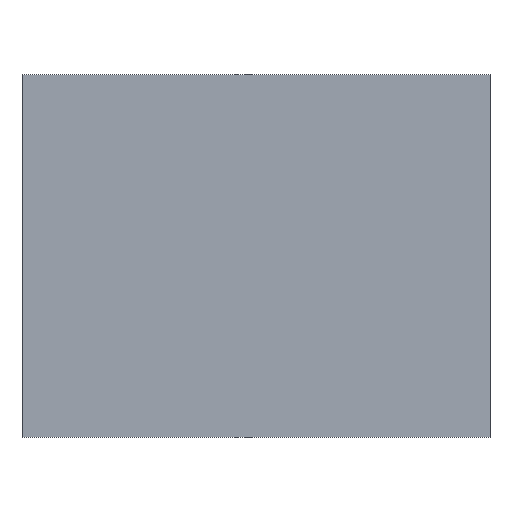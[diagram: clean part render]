
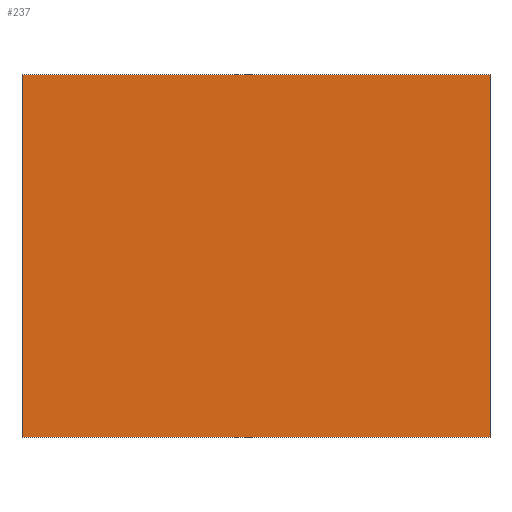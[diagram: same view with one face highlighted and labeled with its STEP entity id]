
A CAD part, front view. The second image highlights one B-rep face of the part: STEP entity #237.
In plain terms, the highlighted planar face has unit normal (0, -1, 0).
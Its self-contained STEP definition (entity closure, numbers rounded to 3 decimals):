
#21 = EDGE_CURVE('',#22,#24,#26,.T.);
#22 = VERTEX_POINT('',#23);
#23 = CARTESIAN_POINT('',(15.4,-42.6,-10.5));
#24 = VERTEX_POINT('',#25);
#25 = CARTESIAN_POINT('',(15.4,-42.6,-7.79));
#26 = SURFACE_CURVE('',#27,(#31,#43),.PCURVE_S1.);
#27 = LINE('',#28,#29);
#28 = CARTESIAN_POINT('',(15.4,-42.6,-10.5));
#29 = VECTOR('',#30,1.);
#30 = DIRECTION('',(0.,0.,1.));
#31 = PCURVE('',#32,#37);
#32 = PLANE('',#33);
#33 = AXIS2_PLACEMENT_3D('',#34,#35,#36);
#34 = CARTESIAN_POINT('',(15.4,-42.6,-10.5));
#35 = DIRECTION('',(1.,0.,-0.));
#36 = DIRECTION('',(0.,0.,1.));
#37 = DEFINITIONAL_REPRESENTATION('',(#38),#42);
#38 = LINE('',#39,#40);
#39 = CARTESIAN_POINT('',(0.,0.));
#40 = VECTOR('',#41,1.);
#41 = DIRECTION('',(1.,0.));
#42 = ( GEOMETRIC_REPRESENTATION_CONTEXT(2) 
PARAMETRIC_REPRESENTATION_CONTEXT() REPRESENTATION_CONTEXT('2D SPACE',''
  ) );
#43 = PCURVE('',#44,#49);
#44 = PLANE('',#45);
#45 = AXIS2_PLACEMENT_3D('',#46,#47,#48);
#46 = CARTESIAN_POINT('',(15.4,-42.6,-10.5));
#47 = DIRECTION('',(-0.,1.,0.));
#48 = DIRECTION('',(0.,0.,1.));
#49 = DEFINITIONAL_REPRESENTATION('',(#50),#54);
#50 = LINE('',#51,#52);
#51 = CARTESIAN_POINT('',(0.,0.));
#52 = VECTOR('',#53,1.);
#53 = DIRECTION('',(1.,0.));
#54 = ( GEOMETRIC_REPRESENTATION_CONTEXT(2) 
PARAMETRIC_REPRESENTATION_CONTEXT() REPRESENTATION_CONTEXT('2D SPACE',''
  ) );
#72 = PLANE('',#73);
#73 = AXIS2_PLACEMENT_3D('',#74,#75,#76);
#74 = CARTESIAN_POINT('',(15.4,-42.6,-10.5));
#75 = DIRECTION('',(0.,0.,1.));
#76 = DIRECTION('',(1.,0.,-0.));
#126 = PLANE('',#127);
#127 = AXIS2_PLACEMENT_3D('',#128,#129,#130);
#128 = CARTESIAN_POINT('',(15.4,-42.6,-7.79));
#129 = DIRECTION('',(0.,0.,1.));
#130 = DIRECTION('',(1.,0.,-0.));
#141 = EDGE_CURVE('',#142,#144,#146,.T.);
#142 = VERTEX_POINT('',#143);
#143 = CARTESIAN_POINT('',(18.9,-42.6,-10.5));
#144 = VERTEX_POINT('',#145);
#145 = CARTESIAN_POINT('',(18.9,-42.6,-7.79));
#146 = SURFACE_CURVE('',#147,(#151,#163),.PCURVE_S1.);
#147 = LINE('',#148,#149);
#148 = CARTESIAN_POINT('',(18.9,-42.6,-10.5));
#149 = VECTOR('',#150,1.);
#150 = DIRECTION('',(0.,0.,1.));
#151 = PCURVE('',#152,#157);
#152 = PLANE('',#153);
#153 = AXIS2_PLACEMENT_3D('',#154,#155,#156);
#154 = CARTESIAN_POINT('',(18.9,-42.6,-10.5));
#155 = DIRECTION('',(1.,0.,-0.));
#156 = DIRECTION('',(0.,0.,1.));
#157 = DEFINITIONAL_REPRESENTATION('',(#158),#162);
#158 = LINE('',#159,#160);
#159 = CARTESIAN_POINT('',(0.,0.));
#160 = VECTOR('',#161,1.);
#161 = DIRECTION('',(1.,0.));
#162 = ( GEOMETRIC_REPRESENTATION_CONTEXT(2) 
PARAMETRIC_REPRESENTATION_CONTEXT() REPRESENTATION_CONTEXT('2D SPACE',''
  ) );
#163 = PCURVE('',#44,#164);
#164 = DEFINITIONAL_REPRESENTATION('',(#165),#169);
#165 = LINE('',#166,#167);
#166 = CARTESIAN_POINT('',(0.,3.5));
#167 = VECTOR('',#168,1.);
#168 = DIRECTION('',(1.,0.));
#169 = ( GEOMETRIC_REPRESENTATION_CONTEXT(2) 
PARAMETRIC_REPRESENTATION_CONTEXT() REPRESENTATION_CONTEXT('2D SPACE',''
  ) );
#237 = ADVANCED_FACE('',(#238),#44,.F.);
#238 = FACE_BOUND('',#239,.F.);
#239 = EDGE_LOOP('',(#240,#261,#262,#283));
#240 = ORIENTED_EDGE('',*,*,#241,.F.);
#241 = EDGE_CURVE('',#22,#142,#242,.T.);
#242 = SURFACE_CURVE('',#243,(#247,#254),.PCURVE_S1.);
#243 = LINE('',#244,#245);
#244 = CARTESIAN_POINT('',(15.4,-42.6,-10.5));
#245 = VECTOR('',#246,1.);
#246 = DIRECTION('',(1.,0.,-0.));
#247 = PCURVE('',#44,#248);
#248 = DEFINITIONAL_REPRESENTATION('',(#249),#253);
#249 = LINE('',#250,#251);
#250 = CARTESIAN_POINT('',(0.,0.));
#251 = VECTOR('',#252,1.);
#252 = DIRECTION('',(0.,1.));
#253 = ( GEOMETRIC_REPRESENTATION_CONTEXT(2) 
PARAMETRIC_REPRESENTATION_CONTEXT() REPRESENTATION_CONTEXT('2D SPACE',''
  ) );
#254 = PCURVE('',#72,#255);
#255 = DEFINITIONAL_REPRESENTATION('',(#256),#260);
#256 = LINE('',#257,#258);
#257 = CARTESIAN_POINT('',(0.,0.));
#258 = VECTOR('',#259,1.);
#259 = DIRECTION('',(1.,0.));
#260 = ( GEOMETRIC_REPRESENTATION_CONTEXT(2) 
PARAMETRIC_REPRESENTATION_CONTEXT() REPRESENTATION_CONTEXT('2D SPACE',''
  ) );
#261 = ORIENTED_EDGE('',*,*,#21,.T.);
#262 = ORIENTED_EDGE('',*,*,#263,.T.);
#263 = EDGE_CURVE('',#24,#144,#264,.T.);
#264 = SURFACE_CURVE('',#265,(#269,#276),.PCURVE_S1.);
#265 = LINE('',#266,#267);
#266 = CARTESIAN_POINT('',(15.4,-42.6,-7.79));
#267 = VECTOR('',#268,1.);
#268 = DIRECTION('',(1.,0.,-0.));
#269 = PCURVE('',#44,#270);
#270 = DEFINITIONAL_REPRESENTATION('',(#271),#275);
#271 = LINE('',#272,#273);
#272 = CARTESIAN_POINT('',(2.71,0.));
#273 = VECTOR('',#274,1.);
#274 = DIRECTION('',(0.,1.));
#275 = ( GEOMETRIC_REPRESENTATION_CONTEXT(2) 
PARAMETRIC_REPRESENTATION_CONTEXT() REPRESENTATION_CONTEXT('2D SPACE',''
  ) );
#276 = PCURVE('',#126,#277);
#277 = DEFINITIONAL_REPRESENTATION('',(#278),#282);
#278 = LINE('',#279,#280);
#279 = CARTESIAN_POINT('',(0.,0.));
#280 = VECTOR('',#281,1.);
#281 = DIRECTION('',(1.,0.));
#282 = ( GEOMETRIC_REPRESENTATION_CONTEXT(2) 
PARAMETRIC_REPRESENTATION_CONTEXT() REPRESENTATION_CONTEXT('2D SPACE',''
  ) );
#283 = ORIENTED_EDGE('',*,*,#141,.F.);
